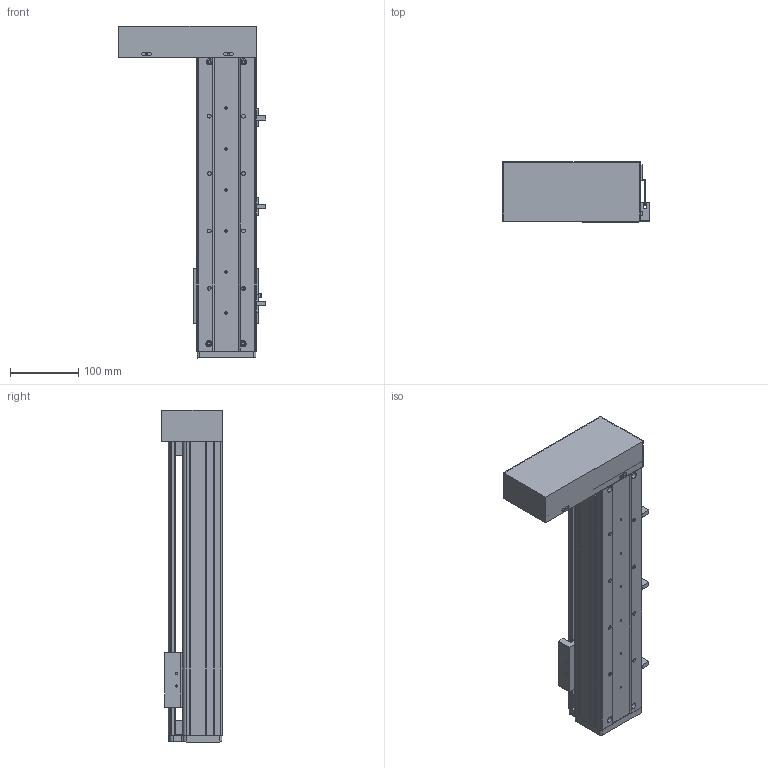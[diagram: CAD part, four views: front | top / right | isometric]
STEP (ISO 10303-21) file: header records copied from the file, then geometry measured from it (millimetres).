
FILE_DESCRIPTION (( 'STEP AP214' ), '1' );
FILE_NAME ('CF86-C-250-FWL.STEP', '2020-01-15T08:29:27', ( '微软用户' ), ( '微软中国' ), 'SwSTEP 2.0', 'SolidWorks 2016', '' );
FILE_SCHEMA (( 'AUTOMOTIVE_DESIGN' ));
Length unit declared in the file: millimetre
Products named in the file (13): 嫖萇羲壽; 75-86-95癹弇羲壽覜茼え; CF86肮祭湍欶酘殏; CF86左折弯电机安装板; CF86賑輸; 02 86盓傅釱; 01 86嘐隅釱; EGW15CA賑輸; EGR15-250; 86臏倰第-250; 86裔啣-250; 86耜啣; CF86-C-250-FWL
Assembly tree (14 placements, depth 2):
  CF86-C-250-FWL
    86耜啣
    86裔啣-250
    86臏倰第-250
    EGR15-250
    EGW15CA賑輸
    01 86嘐隅釱
    02 86盓傅釱
    CF86賑輸
    CF86左折弯电机安装板
    CF86肮祭湍欶酘殏
    75-86-95癹弇羲壽覜茼え
    嫖萇羲壽  x3
Bounding box: 215.22 x 88 x 486 mm (x, y, z)
Volume: 1385397.6 mm3; surface area: 549018.6 mm2
Topology: 14 solids, 14 shells, 643 faces, 1739 edges, 1150 vertices
Faces by surface type: plane 358, cylinder 277, cone 8
Entity records: 20436 total; most frequent: CARTESIAN_POINT 3472, DIRECTION 3305, ORIENTED_EDGE 3174, EDGE_CURVE 1587, AXIS2_PLACEMENT_3D 1147, VERTEX_POINT 1054, LINE 1011, VECTOR 1011
